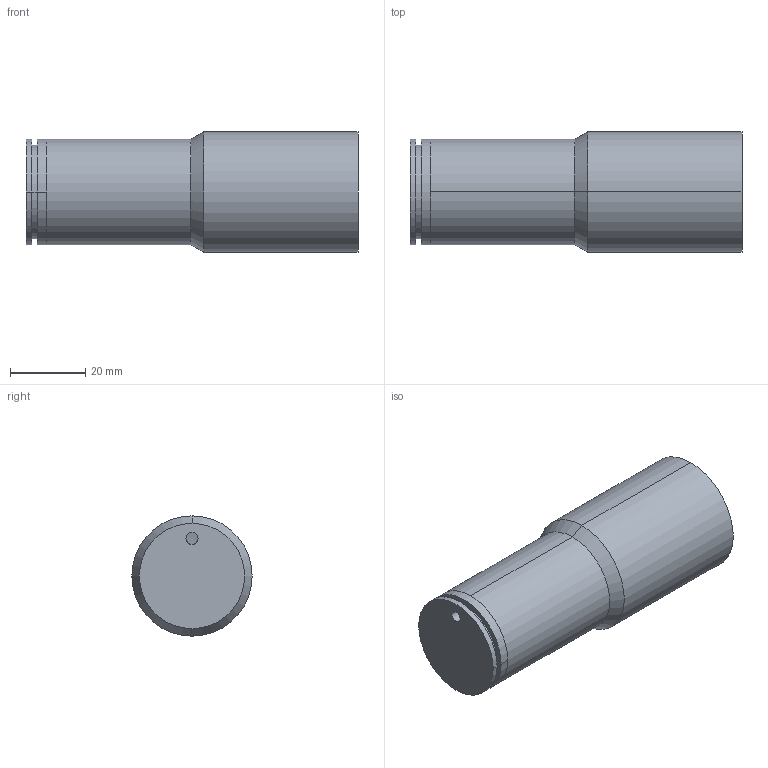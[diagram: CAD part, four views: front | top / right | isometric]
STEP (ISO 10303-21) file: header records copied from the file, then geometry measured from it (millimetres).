
FILE_DESCRIPTION (( 'STEP AP203' ), '1' );
FILE_NAME ('XF-PTI020.STEP', '2022-02-23T07:43:39', ( '' ), ( '' ), 'SwSTEP 2.0', 'SolidWorks 2018', '' );
FILE_SCHEMA (( 'CONFIG_CONTROL_DESIGN' ));
Length unit declared in the file: millimetre
Products named in the file (2): XF-PTI020
Bounding box: 88.33 x 32 x 32 mm (x, y, z)
Surface area: 10707.9 mm2 (no closed solid volume)
Topology: 0 solids, 4 shells, 34 faces, 86 edges, 59 vertices
Faces by surface type: cylinder 16, plane 14, cone 2, sphere 2
Entity records: 1196 total; most frequent: DIRECTION 208, CARTESIAN_POINT 181, ORIENTED_EDGE 148, EDGE_CURVE 86, AXIS2_PLACEMENT_3D 86, VERTEX_POINT 59, CIRCLE 50, EDGE_LOOP 40
